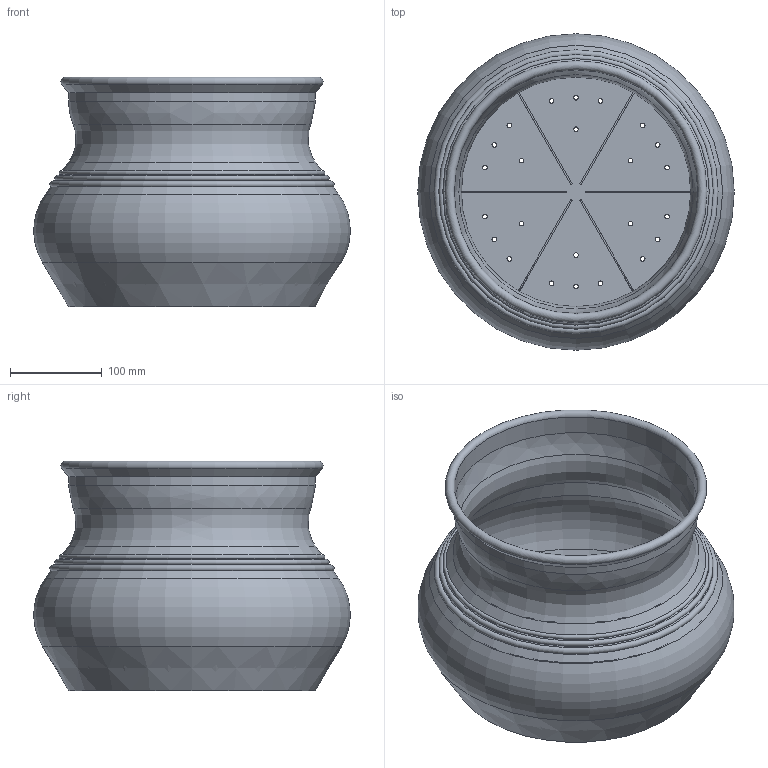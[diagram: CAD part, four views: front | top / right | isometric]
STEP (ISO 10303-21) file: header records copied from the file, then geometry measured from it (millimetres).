
FILE_DESCRIPTION(/* description */ (''),/* implementation_level */ '2;1');
FILE_NAME(/* name */ 'LR2406-S17-H250-D350_step.step',/* time_stamp */ '2024-02-01T11:03:56+01:00',/* author */ (''),/* organization */ (''),/* preprocessor_version */ 'ST-DEVELOPER v20',/* originating_system */ 'Autodesk Translation Framework v12.20.1.177',/* authorisation */ '');
FILE_SCHEMA (('AUTOMOTIVE_DESIGN { 1 0 10303 214 3 1 1 }'));
Length unit declared in the file: millimetre
Products named in the file (1): LR2406-S17-H250-D350
Bounding box: 344.63 x 344.63 x 250 mm (x, y, z)
Volume: 633895.2 mm3; surface area: 637103.7 mm2
Topology: 1 solids, 1 shells, 70 faces, 185 edges, 117 vertices
Faces by surface type: cylinder 32, plane 20, cone 8, torus 8, bspline 2
Full cylindrical faces by diameter (mm): 5 x24, 265.36 x1, 268.72 x1
Entity records: 2380 total; most frequent: DIRECTION 426, CARTESIAN_POINT 425, ORIENTED_EDGE 370, EDGE_CURVE 185, AXIS2_PLACEMENT_3D 172, EDGE_LOOP 118, VERTEX_POINT 117, CIRCLE 103
